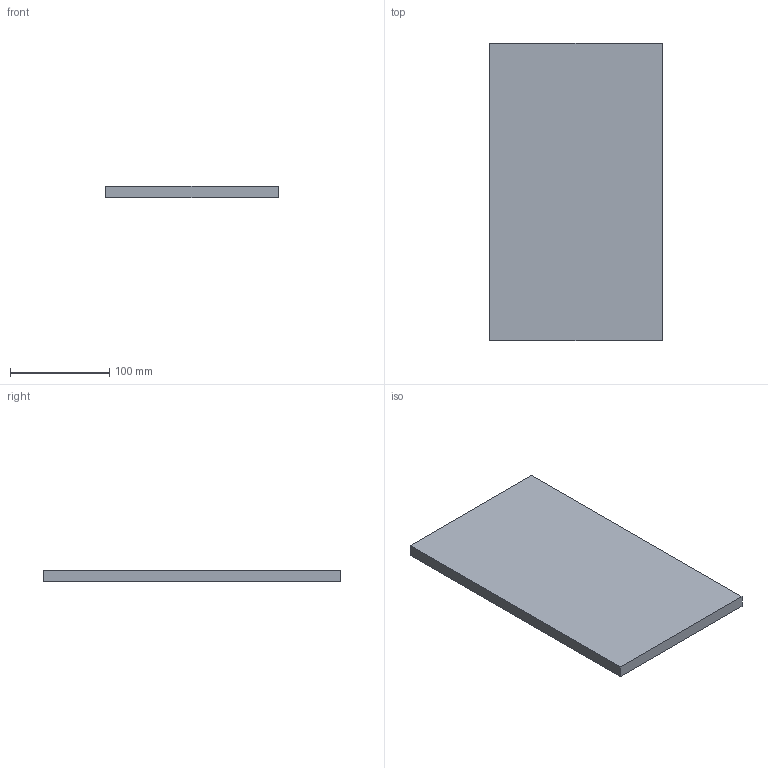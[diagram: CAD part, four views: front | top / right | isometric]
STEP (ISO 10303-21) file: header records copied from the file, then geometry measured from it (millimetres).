
FILE_DESCRIPTION(('Open CASCADE Model'),'2;1');
FILE_NAME('Open CASCADE Shape Model','2026-10-15T15:10:05',('Author'),( 'Open CASCADE'),'Open CASCADE STEP processor 8.0','Open CASCADE 8.0' ,'Unknown');
FILE_SCHEMA(('AUTOMOTIVE_DESIGN { 1 0 10303 214 1 1 1 1 }'));
Length unit declared in the file: millimetre
Products named in the file (1): BRT_COLLAR_174x300x12_P05 167
Bounding box: 174 x 300 x 12 mm (x, y, z)
Volume: 626400 mm3; surface area: 115776 mm2
Topology: 1 solids, 1 shells, 6 faces, 12 edges, 8 vertices
Faces by surface type: plane 6
Entity records: 322 total; most frequent: CARTESIAN_POINT 51, DIRECTION 50, LINE 36, VECTOR 36, ORIENTED_EDGE 24, PCURVE 24, DEFINITIONAL_REPRESENTATION 24, EDGE_CURVE 12
